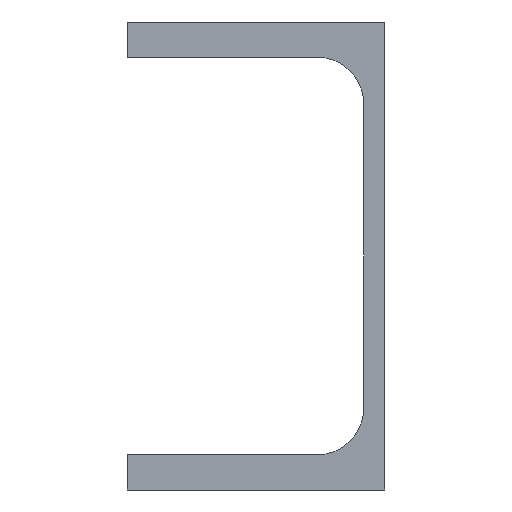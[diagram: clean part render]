
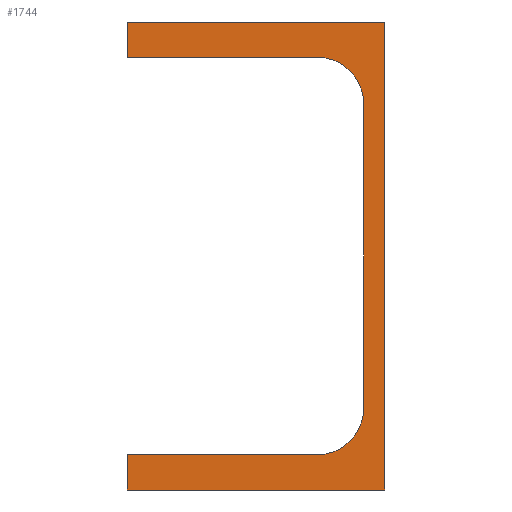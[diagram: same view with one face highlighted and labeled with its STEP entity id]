
A CAD part, front view. The second image highlights one B-rep face of the part: STEP entity #1744.
In plain terms, the highlighted planar face has unit normal (0, -1, 0).
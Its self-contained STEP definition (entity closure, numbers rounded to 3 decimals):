
#38 = VERTEX_POINT ( 'NONE', #1772 ) ;
#60 = CIRCLE ( 'NONE', #263, 10. ) ;
#104 = DIRECTION ( 'NONE',  ( 0., 0., -1. ) ) ;
#108 = VERTEX_POINT ( 'NONE', #2162 ) ;
#176 = CARTESIAN_POINT ( 'NONE',  ( 8895., 1845., 4080. ) ) ;
#181 = LINE ( 'NONE', #1425, #465 ) ;
#203 = EDGE_CURVE ( 'NONE', #3482, #2610, #2279, .T. ) ;
#250 = CARTESIAN_POINT ( 'NONE',  ( 8895., 1845., 4080. ) ) ;
#263 = AXIS2_PLACEMENT_3D ( 'NONE', #3631, #1396, #2017 ) ;
#268 = DIRECTION ( 'NONE',  ( 0., 1., 0. ) ) ;
#269 = DIRECTION ( 'NONE',  ( 0., 0., -1. ) ) ;
#396 = VECTOR ( 'NONE', #3459, 1000. ) ;
#440 = LINE ( 'NONE', #3521, #396 ) ;
#446 = CARTESIAN_POINT ( 'NONE',  ( 8945.5, 1845., 4097.5 ) ) ;
#464 = DIRECTION ( 'NONE',  ( -1., 0., 0. ) ) ;
#465 = VECTOR ( 'NONE', #2129, 1000. ) ;
#535 = EDGE_CURVE ( 'NONE', #2240, #3242, #2003, .T. ) ;
#566 = CARTESIAN_POINT ( 'NONE',  ( 8945.5, 1845., 4162.5 ) ) ;
#656 = DIRECTION ( 'NONE',  ( 0., 0., -1. ) ) ;
#724 = VECTOR ( 'NONE', #104, 1000. ) ;
#757 = EDGE_CURVE ( 'NONE', #38, #1660, #2411, .T. ) ;
#758 = ORIENTED_EDGE ( 'NONE', *, *, #535, .T. ) ;
#1123 = EDGE_CURVE ( 'NONE', #108, #38, #2308, .T. ) ;
#1136 = AXIS2_PLACEMENT_3D ( 'NONE', #2506, #2174, #656 ) ;
#1184 = DIRECTION ( 'NONE',  ( 0., 0., -1. ) ) ;
#1196 = CIRCLE ( 'NONE', #1908, 10. ) ;
#1234 = VECTOR ( 'NONE', #269, 1000. ) ;
#1245 = EDGE_LOOP ( 'NONE', ( #3194, #1742, #3522, #2376, #2230, #2168, #1271, #1588, #3477, #758 ) ) ;
#1271 = ORIENTED_EDGE ( 'NONE', *, *, #2133, .T. ) ;
#1272 = PLANE ( 'NONE',  #1136 ) ;
#1373 = VERTEX_POINT ( 'NONE', #1556 ) ;
#1396 = DIRECTION ( 'NONE',  ( 0., 1., 0. ) ) ;
#1425 = CARTESIAN_POINT ( 'NONE',  ( 8895., 1845., 4172.5 ) ) ;
#1427 = DIRECTION ( 'NONE',  ( 0., 0., -1. ) ) ;
#1487 = LINE ( 'NONE', #566, #1234 ) ;
#1507 = CARTESIAN_POINT ( 'NONE',  ( 8935.5, 1845., 4162.5 ) ) ;
#1523 = CARTESIAN_POINT ( 'NONE',  ( 8895., 1845., 4172.5 ) ) ;
#1556 = CARTESIAN_POINT ( 'NONE',  ( 8935.5, 1845., 4172.5 ) ) ;
#1588 = ORIENTED_EDGE ( 'NONE', *, *, #2900, .T. ) ;
#1616 = CARTESIAN_POINT ( 'NONE',  ( 8895., 1845., 4087.5 ) ) ;
#1660 = VERTEX_POINT ( 'NONE', #1523 ) ;
#1742 = ORIENTED_EDGE ( 'NONE', *, *, #203, .T. ) ;
#1744 = ADVANCED_FACE ( 'NONE', ( #3699 ), #1272, .T. ) ;
#1766 = DIRECTION ( 'NONE',  ( -1., 0., 0. ) ) ;
#1772 = CARTESIAN_POINT ( 'NONE',  ( 8895., 1845., 4180. ) ) ;
#1908 = AXIS2_PLACEMENT_3D ( 'NONE', #1507, #268, #1184 ) ;
#2003 = LINE ( 'NONE', #2044, #2609 ) ;
#2017 = DIRECTION ( 'NONE',  ( 0., 0., -1. ) ) ;
#2044 = CARTESIAN_POINT ( 'NONE',  ( 8935.5, 1845., 4087.5 ) ) ;
#2129 = DIRECTION ( 'NONE',  ( 1., 0., 0. ) ) ;
#2133 = EDGE_CURVE ( 'NONE', #1373, #2275, #1196, .T. ) ;
#2162 = CARTESIAN_POINT ( 'NONE',  ( 8950., 1845., 4180. ) ) ;
#2168 = ORIENTED_EDGE ( 'NONE', *, *, #2893, .T. ) ;
#2174 = DIRECTION ( 'NONE',  ( 0., -1., 0. ) ) ;
#2188 = CARTESIAN_POINT ( 'NONE',  ( 8950., 1845., 4080. ) ) ;
#2230 = ORIENTED_EDGE ( 'NONE', *, *, #757, .T. ) ;
#2240 = VERTEX_POINT ( 'NONE', #2831 ) ;
#2275 = VERTEX_POINT ( 'NONE', #3761 ) ;
#2279 = LINE ( 'NONE', #176, #2482 ) ;
#2308 = LINE ( 'NONE', #3543, #2486 ) ;
#2376 = ORIENTED_EDGE ( 'NONE', *, *, #1123, .T. ) ;
#2382 = VERTEX_POINT ( 'NONE', #446 ) ;
#2411 = LINE ( 'NONE', #3565, #3574 ) ;
#2482 = VECTOR ( 'NONE', #2650, 1000. ) ;
#2486 = VECTOR ( 'NONE', #464, 1000. ) ;
#2506 = CARTESIAN_POINT ( 'NONE',  ( 7972.5, 1845., 4175. ) ) ;
#2609 = VECTOR ( 'NONE', #1766, 1000. ) ;
#2610 = VERTEX_POINT ( 'NONE', #2188 ) ;
#2650 = DIRECTION ( 'NONE',  ( 1., 0., 0. ) ) ;
#2716 = CARTESIAN_POINT ( 'NONE',  ( 8895., 1845., 4087.5 ) ) ;
#2795 = EDGE_CURVE ( 'NONE', #2610, #108, #440, .T. ) ;
#2831 = CARTESIAN_POINT ( 'NONE',  ( 8935.5, 1845., 4087.5 ) ) ;
#2893 = EDGE_CURVE ( 'NONE', #1660, #1373, #181, .T. ) ;
#2900 = EDGE_CURVE ( 'NONE', #2275, #2382, #1487, .T. ) ;
#3194 = ORIENTED_EDGE ( 'NONE', *, *, #3318, .T. ) ;
#3242 = VERTEX_POINT ( 'NONE', #2716 ) ;
#3318 = EDGE_CURVE ( 'NONE', #3242, #3482, #3788, .T. ) ;
#3459 = DIRECTION ( 'NONE',  ( 0., 0., 1. ) ) ;
#3477 = ORIENTED_EDGE ( 'NONE', *, *, #3671, .T. ) ;
#3482 = VERTEX_POINT ( 'NONE', #250 ) ;
#3521 = CARTESIAN_POINT ( 'NONE',  ( 8950., 1845., 4080. ) ) ;
#3522 = ORIENTED_EDGE ( 'NONE', *, *, #2795, .T. ) ;
#3543 = CARTESIAN_POINT ( 'NONE',  ( 8950., 1845., 4180. ) ) ;
#3565 = CARTESIAN_POINT ( 'NONE',  ( 8895., 1845., 4180. ) ) ;
#3574 = VECTOR ( 'NONE', #1427, 1000. ) ;
#3631 = CARTESIAN_POINT ( 'NONE',  ( 8935.5, 1845., 4097.5 ) ) ;
#3671 = EDGE_CURVE ( 'NONE', #2382, #2240, #60, .T. ) ;
#3699 = FACE_OUTER_BOUND ( 'NONE', #1245, .T. ) ;
#3761 = CARTESIAN_POINT ( 'NONE',  ( 8945.5, 1845., 4162.5 ) ) ;
#3788 = LINE ( 'NONE', #1616, #724 ) ;
